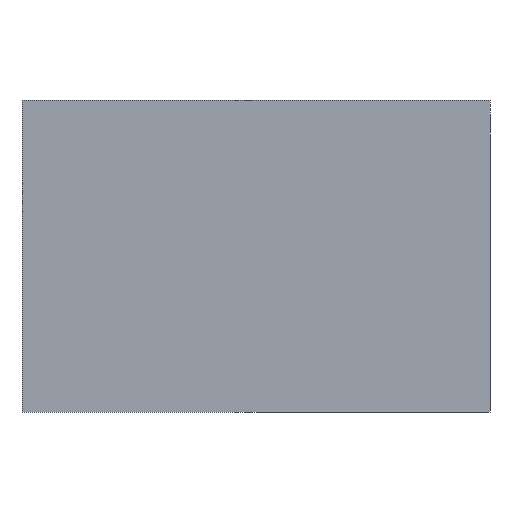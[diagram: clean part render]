
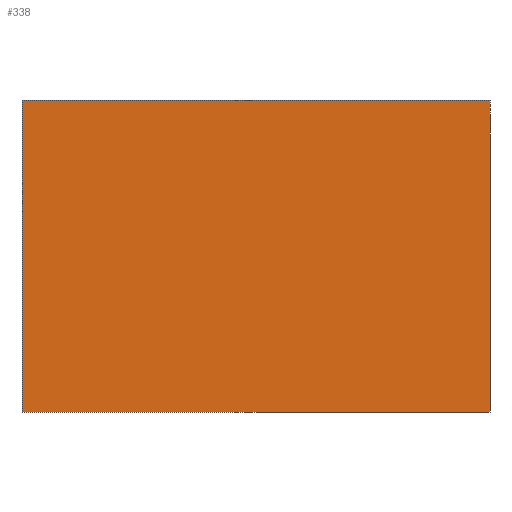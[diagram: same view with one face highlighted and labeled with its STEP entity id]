
A CAD part, front view. The second image highlights one B-rep face of the part: STEP entity #338.
In plain terms, the highlighted planar face has unit normal (0, -1, 0).
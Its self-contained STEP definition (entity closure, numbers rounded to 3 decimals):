
#30=FACE_OUTER_BOUND('',#46,.T.);
#46=EDGE_LOOP('',(#303,#304,#305,#306));
#86=LINE('',#535,#132);
#88=LINE('',#539,#134);
#90=LINE('',#543,#136);
#92=LINE('',#546,#138);
#132=VECTOR('',#440,10.);
#134=VECTOR('',#444,10.);
#136=VECTOR('',#448,10.);
#138=VECTOR('',#452,10.);
#165=VERTEX_POINT('',#532);
#166=VERTEX_POINT('',#534);
#167=VERTEX_POINT('',#538);
#168=VERTEX_POINT('',#542);
#208=EDGE_CURVE('',#166,#165,#86,.T.);
#210=EDGE_CURVE('',#167,#166,#88,.T.);
#212=EDGE_CURVE('',#168,#167,#90,.T.);
#214=EDGE_CURVE('',#165,#168,#92,.T.);
#303=ORIENTED_EDGE('',*,*,#214,.T.);
#304=ORIENTED_EDGE('',*,*,#212,.T.);
#305=ORIENTED_EDGE('',*,*,#210,.T.);
#306=ORIENTED_EDGE('',*,*,#208,.T.);
#322=PLANE('',#374);
#338=ADVANCED_FACE('',(#30),#322,.T.);
#374=AXIS2_PLACEMENT_3D('',#547,#453,#454);
#440=DIRECTION('',(0.,0.,-1.));
#444=DIRECTION('',(-1.,0.,0.));
#448=DIRECTION('',(0.,0.,1.));
#452=DIRECTION('',(1.,0.,0.));
#453=DIRECTION('center_axis',(0.,-1.,0.));
#454=DIRECTION('ref_axis',(0.,0.,-1.));
#532=CARTESIAN_POINT('',(-45.,-20.,-30.));
#534=CARTESIAN_POINT('',(-45.,-20.,30.));
#535=CARTESIAN_POINT('',(-45.,-20.,-30.));
#538=CARTESIAN_POINT('',(45.,-20.,30.));
#539=CARTESIAN_POINT('',(-45.,-20.,30.));
#542=CARTESIAN_POINT('',(45.,-20.,-30.));
#543=CARTESIAN_POINT('',(45.,-20.,30.));
#546=CARTESIAN_POINT('',(45.,-20.,-30.));
#547=CARTESIAN_POINT('Origin',(0.,-20.,0.));
